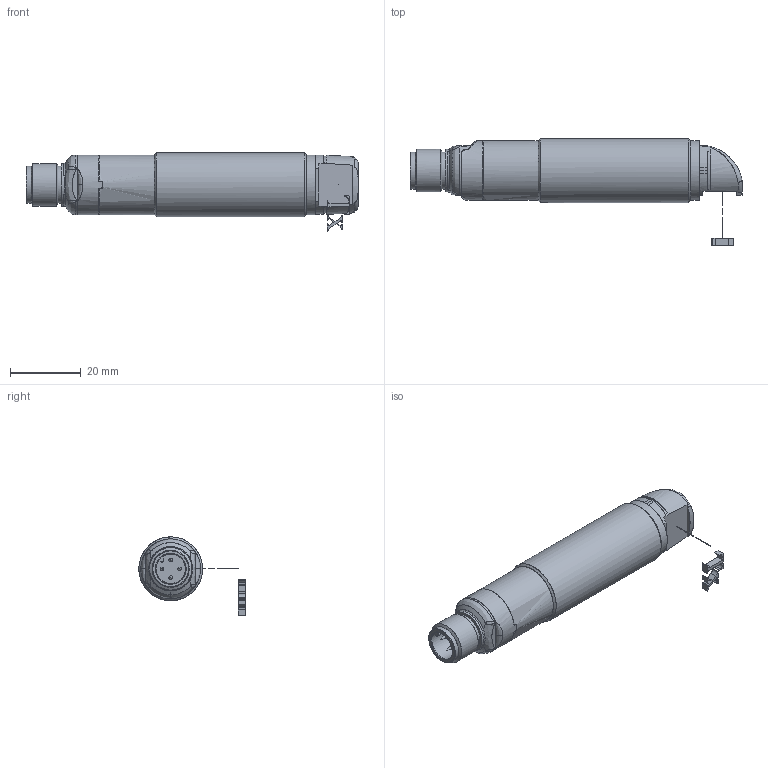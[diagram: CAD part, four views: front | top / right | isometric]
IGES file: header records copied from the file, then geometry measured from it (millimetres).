
Global section: file name: D:\TMP\DSD-0107.igs; preprocessor: I-DEAS 3D IGES Translator 11; date: 20060608.105535; units: millimetre
Bounding box: 93.6 x 30 x 22.04 mm (x, y, z)
Surface area: 10353 mm2
Topology: 4 solids, 4 shells, 229 faces, 1134 edges, 1032 vertices
Faces by surface type: bspline 229
